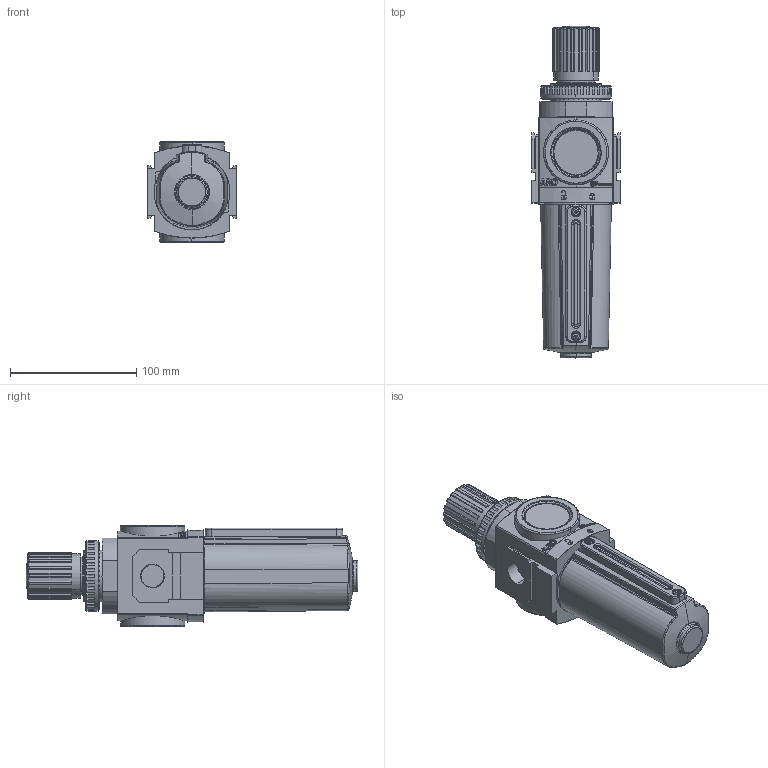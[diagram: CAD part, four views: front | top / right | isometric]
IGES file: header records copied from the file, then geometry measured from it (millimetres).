
Global section: file name: C:\Documents and Settings\szeedyk\Desktop\P393XX-X1X_02.igs; native system: NX V4.0; preprocessor: UGS NX IGES V4.0; date: 20090206.112942; units: inch
Bounding box: 70 x 262.89 x 80 mm (x, y, z)
Surface area: 72269.8 mm2 (no closed solid volume)
Topology: 0 solids, 0 shells, 1329 faces, 7971 edges, 7971 vertices
Faces by surface type: bspline 1329
